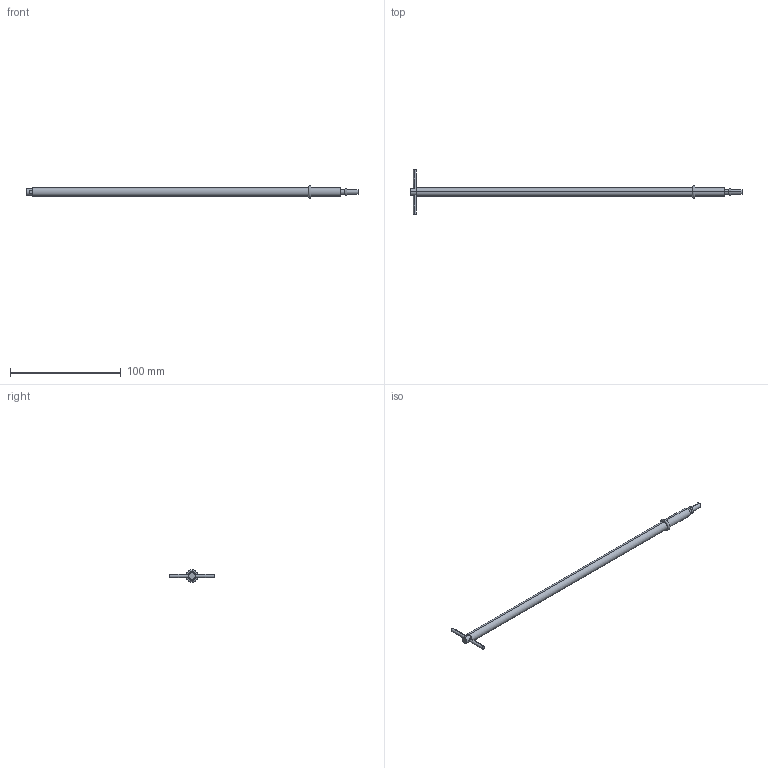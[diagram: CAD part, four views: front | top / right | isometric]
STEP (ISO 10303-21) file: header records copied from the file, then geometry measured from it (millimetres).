
FILE_DESCRIPTION (( 'STEP AP214' ), '1' );
FILE_NAME ('BRWV-308.STEP', '2020-06-23T10:52:31', ( '' ), ( '' ), 'SwSTEP 2.0', 'SolidWorks 2018', '' );
FILE_SCHEMA (( 'AUTOMOTIVE_DESIGN' ));
Length unit declared in the file: millimetre
Products named in the file (1): BRWV-308
Bounding box: 300 x 40 x 11.13 mm (x, y, z)
Volume: 14721.8 mm3; surface area: 7981.6 mm2
Topology: 1 solids, 1 shells, 27 faces, 52 edges, 32 vertices
Faces by surface type: cylinder 16, plane 7, torus 4
Entity records: 820 total; most frequent: CARTESIAN_POINT 212, DIRECTION 136, ORIENTED_EDGE 104, AXIS2_PLACEMENT_3D 60, EDGE_CURVE 52, EDGE_LOOP 32, VERTEX_POINT 32, CIRCLE 32
